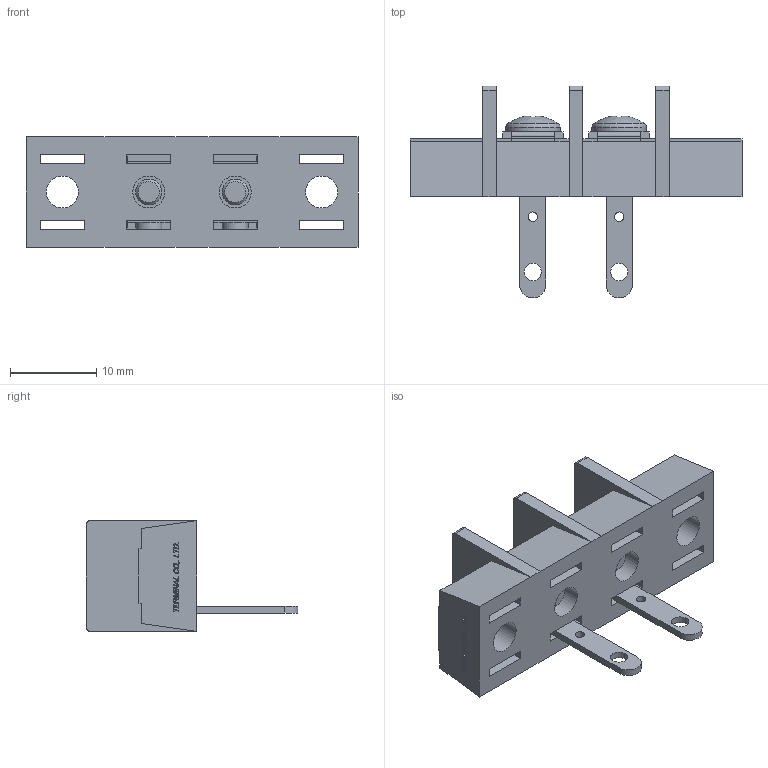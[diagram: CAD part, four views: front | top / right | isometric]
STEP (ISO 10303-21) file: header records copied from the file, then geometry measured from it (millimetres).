
FILE_DESCRIPTION(/* description */ ('Alibre Inc.'),/* implementation_level */ '2;1');
FILE_NAME(/* name */ 'export0',/* time_stamp */ '2015-10-22T20:33:47+09:00',/* author */ (''),/* organization */ (''),/* preprocessor_version */ 'ST-DEVELOPER v14',/* originating_system */ 'Alibre',/* authorisation */ '');
FILE_SCHEMA (('CONFIG_CONTROL_DESIGN'));
Length unit declared in the file: centimetre
Products named in the file (1): ID_1
Bounding box: 38.4 x 24.5 x 12.8 mm (x, y, z)
Volume: 3140.5 mm3; surface area: 3724.3 mm2
Topology: 1 solids, 35 shells, 978 faces, 2544 edges, 1686 vertices
Faces by surface type: plane 724, bspline 208, cylinder 30, cone 10, torus 4, sphere 2
Full cylindrical faces by diameter (mm): 1.1 x2, 2 x2, 3 x4, 3.7 x4, 4.6 x4, 6.3 x2
Entity records: 28777 total; most frequent: CARTESIAN_POINT 7049, ORIENTED_EDGE 5032, DIRECTION 2946, EDGE_CURVE 2516, VECTOR 1956, LINE 1956, VERTEX_POINT 1682, EDGE_LOOP 1100
